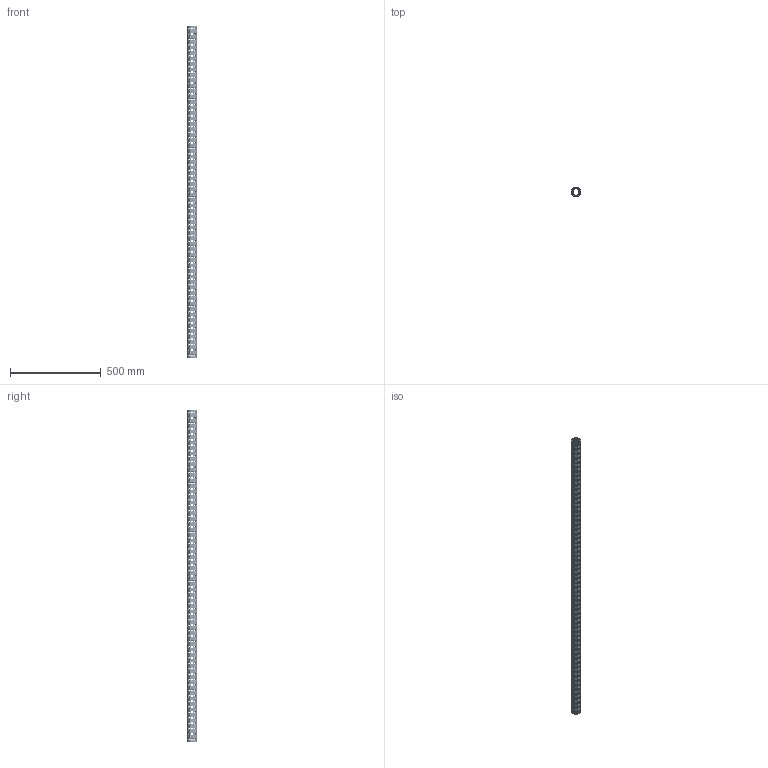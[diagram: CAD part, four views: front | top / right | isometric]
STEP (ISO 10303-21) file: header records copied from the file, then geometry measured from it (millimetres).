
FILE_DESCRIPTION(('CATIA V5 STEP Exchange'),'2;1');
FILE_NAME('U:\Room\唐宝山\EGT002\46-01-010290-01-EGT002-1828.stp','2021-08-24T01:39:53+00:00',('none'),('none'),'CATIA Version 5 Release 21 GA (IN-10)','CATIA V5 STEP AP203','none');
FILE_SCHEMA(('CONFIG_CONTROL_DESIGN'));
Products named in the file (1): 46-01-010290-01-EGT002-1828
Bounding box: 50 x 50 x 1828 mm (x, y, z)
Volume: 1302413.8 mm3; surface area: 628065.7 mm2
Topology: 1 solids, 1 shells, 2524 faces, 6956 edges, 4312 vertices
Faces by surface type: cone 1464, cylinder 1034, plane 26
Entity records: 108638 total; most frequent: CARTESIAN_POINT 48123, ORIENTED_EDGE 13912, DIRECTION 9523, EDGE_CURVE 6956, VERTEX_POINT 4312, AXIS2_PLACEMENT_3D 4308, EDGE_LOOP 3380, VECTOR 2692
